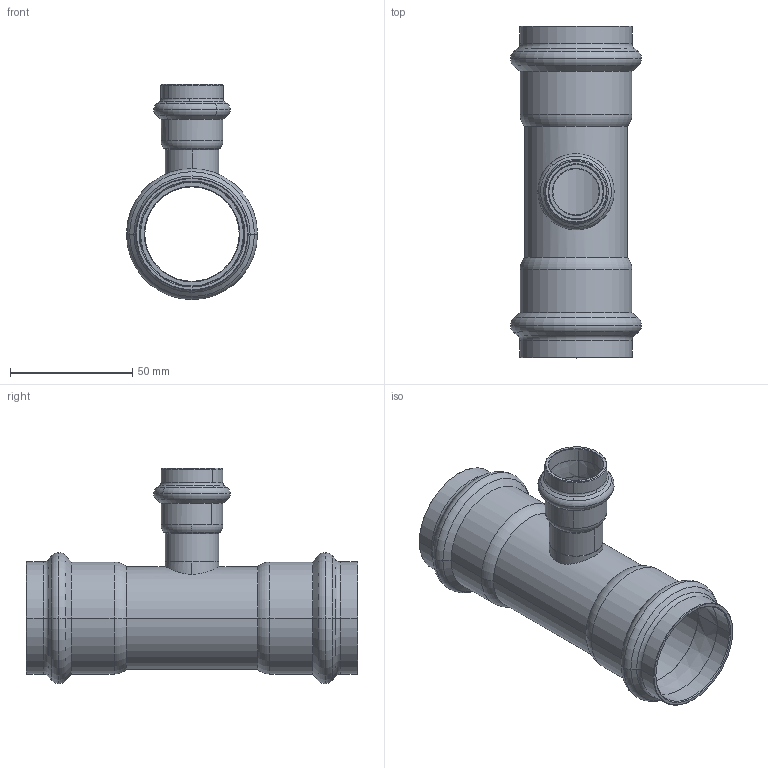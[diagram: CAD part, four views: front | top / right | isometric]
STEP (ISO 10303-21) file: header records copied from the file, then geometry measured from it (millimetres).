
FILE_DESCRIPTION(('CoCreate Modeling STEP Export'),'2;1');
FILE_NAME('8130RVW422242.stp','2013-01-31T14:43:31',(''),(''),'CoCreate Modeling STEP processor for AP214 (Solid Model)','CoCreate Modeling 17.00A 17-Jun-2010 (C) Parametric Technology GmbH','');
FILE_SCHEMA(('AUTOMOTIVE_DESIGN { 1 0 10303 214 1 1 1 1 }'));
Length unit declared in the file: millimetre
Products named in the file (2): 8130RVW422242
Assembly tree (1 placements, depth 2):
  8130RVW422242
    8130RVW422242
Bounding box: 53.61 x 135.73 x 88.05 mm (x, y, z)
Volume: 44601.1 mm3; surface area: 44913 mm2
Topology: 1 solids, 1 shells, 134 faces, 312 edges, 188 vertices
Faces by surface type: cylinder 42, torus 42, cone 38, plane 10, bspline 2
Entity records: 5247 total; most frequent: CARTESIAN_POINT 2680, ORIENTED_EDGE 624, DIRECTION 444, EDGE_CURVE 312, VERTEX_POINT 188, AXIS2_PLACEMENT_3D 182, EDGE_LOOP 146, FACE_OUTER_BOUND 134
